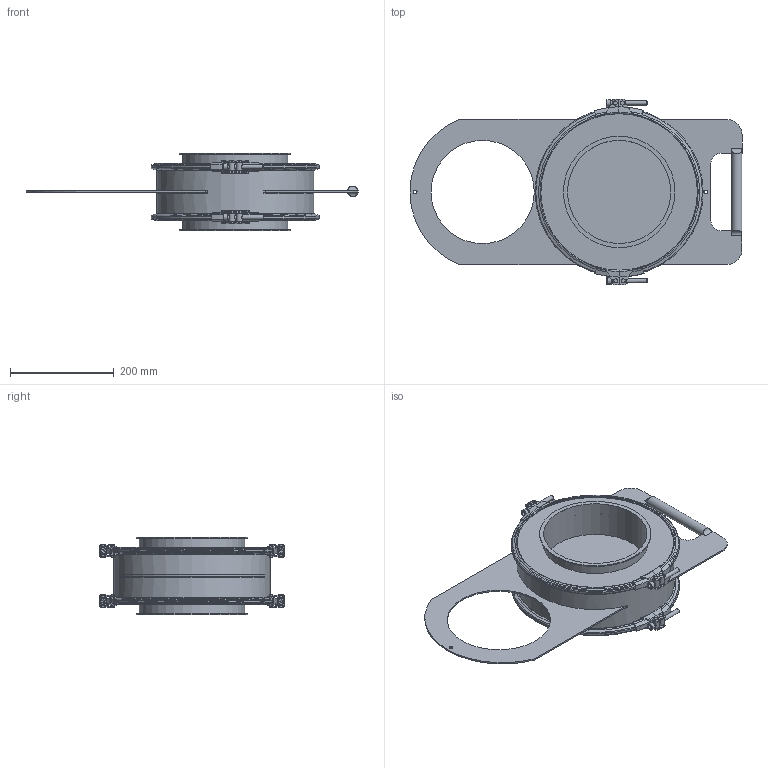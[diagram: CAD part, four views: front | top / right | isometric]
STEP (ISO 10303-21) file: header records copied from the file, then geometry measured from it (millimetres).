
FILE_DESCRIPTION((''),'2;1');
FILE_NAME('U:\Wolfgang\Marcel-3D\fertig\Kapitel 9\2021081.stp','2011-10-11T13:06:48',('iwienholt'),(''),'Autodesk Inventor 2010','Autodesk Inventor 2010','');
FILE_SCHEMA(('AUTOMOTIVE_DESIGN { 1 0 10303 214 1 1 1 1 }'));
Length unit declared in the file: millimetre
Products named in the file (10): 2021081; Rohr DN200; Schieber DN200; 3022055; 3022055-1; Verschluss b=324; Verschlussrolle; VerschlussrolleGewinde; ISO 4762 M8 x 70; 3022055-Dichtmasse
Assembly tree (17 placements, depth 3):
  2021081
    Rohr DN200
    Schieber DN200
    3022055  x2
      3022055-1
      Verschluss b=324
      Verschlussrolle
      VerschlussrolleGewinde
      ISO 4762 M8 x 70
      3022055-Dichtmasse
Bounding box: 640 x 357.99 x 150 mm (x, y, z)
Volume: 1395655.8 mm3; surface area: 1085564.5 mm2
Topology: 28 solids, 28 shells, 870 faces, 2306 edges, 1522 vertices
Faces by surface type: cylinder 269, plane 246, bspline 175, cone 144, torus 36
Full cylindrical faces by diameter (mm): 5 x16, 6 x4, 8 x20, 12 x8, 13 x4, 20 x1, 199 x3, 203 x4, 215 x1, 299 x1, 302 x2, 303 x1, 315 x1, 320 x2
Entity records: 7259 total; most frequent: CARTESIAN_POINT 2389, DIRECTION 978, ORIENTED_EDGE 890, EDGE_CURVE 445, AXIS2_PLACEMENT_3D 392, VERTEX_POINT 317, EDGE_LOOP 274, FACE_OUTER_BOUND 199
